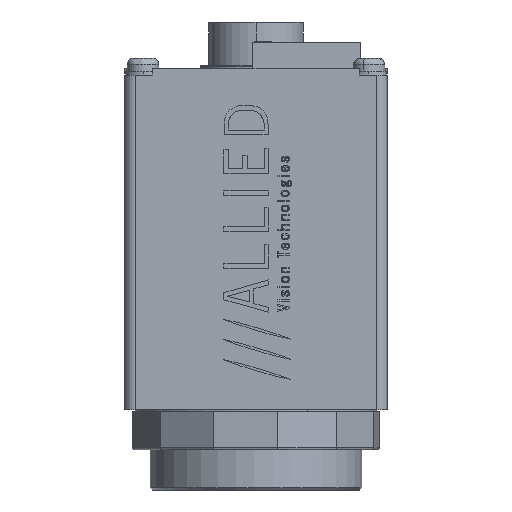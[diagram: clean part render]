
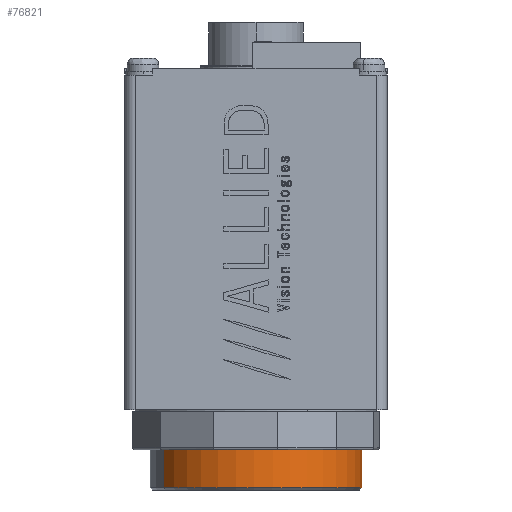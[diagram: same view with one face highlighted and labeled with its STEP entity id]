
A CAD part, left-side view. The second image highlights one B-rep face of the part: STEP entity #76821.
In plain terms, the highlighted cylindrical face has radius 13.335 mm (diameter 26.67 mm), a partial arc.
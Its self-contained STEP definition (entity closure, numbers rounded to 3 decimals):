
#4271 = VERTEX_POINT ( 'NONE', #60377 ) ;
#8451 = LINE ( 'NONE', #150853, #146968 ) ;
#12616 = DIRECTION ( 'NONE',  ( 0., 0., -1. ) ) ;
#16207 = VERTEX_POINT ( 'NONE', #170030 ) ;
#17983 = EDGE_CURVE ( 'NONE', #16207, #18425, #37618, .T. ) ;
#18425 = VERTEX_POINT ( 'NONE', #113502 ) ;
#24661 = EDGE_CURVE ( 'NONE', #16207, #4271, #8451, .T. ) ;
#30802 = AXIS2_PLACEMENT_3D ( 'NONE', #95742, #12616, #109544 ) ;
#37618 = CIRCLE ( 'NONE', #100618, 13.335 ) ;
#37852 = ORIENTED_EDGE ( 'NONE', *, *, #83268, .T. ) ;
#48299 = CYLINDRICAL_SURFACE ( 'NONE', #114862, 13.335 ) ;
#59010 = ORIENTED_EDGE ( 'NONE', *, *, #24661, .F. ) ;
#59502 = LINE ( 'NONE', #64895, #96219 ) ;
#60377 = CARTESIAN_POINT ( 'NONE',  ( -13.335, 0., 13.386 ) ) ;
#61333 = FACE_OUTER_BOUND ( 'NONE', #74140, .T. ) ;
#64895 = CARTESIAN_POINT ( 'NONE',  ( 13.335, 0., 7.214 ) ) ;
#71347 = DIRECTION ( 'NONE',  ( 1., 0., 0. ) ) ;
#72879 = DIRECTION ( 'NONE',  ( 0., 0., 1. ) ) ;
#72907 = CARTESIAN_POINT ( 'NONE',  ( 0., 0., 7.214 ) ) ;
#74140 = EDGE_LOOP ( 'NONE', ( #59010, #160220, #37852, #138491 ) ) ;
#76821 = ADVANCED_FACE ( 'NONE', ( #61333 ), #48299, .T. ) ;
#83268 = EDGE_CURVE ( 'NONE', #18425, #154125, #59502, .T. ) ;
#95742 = CARTESIAN_POINT ( 'NONE',  ( 0., 0., 13.386 ) ) ;
#96219 = VECTOR ( 'NONE', #174271, 1000. ) ;
#98395 = EDGE_CURVE ( 'NONE', #154125, #4271, #112491, .T. ) ;
#100618 = AXIS2_PLACEMENT_3D ( 'NONE', #161258, #161095, #161044 ) ;
#109544 = DIRECTION ( 'NONE',  ( 1., 0., 0. ) ) ;
#112491 = CIRCLE ( 'NONE', #30802, 13.335 ) ;
#113502 = CARTESIAN_POINT ( 'NONE',  ( 13.335, 0., 7.214 ) ) ;
#114862 = AXIS2_PLACEMENT_3D ( 'NONE', #72907, #72879, #71347 ) ;
#138491 = ORIENTED_EDGE ( 'NONE', *, *, #98395, .T. ) ;
#146888 = CARTESIAN_POINT ( 'NONE',  ( 13.335, 0., 13.386 ) ) ;
#146968 = VECTOR ( 'NONE', #150080, 1000. ) ;
#150080 = DIRECTION ( 'NONE',  ( 0., 0., 1. ) ) ;
#150853 = CARTESIAN_POINT ( 'NONE',  ( -13.335, 0., 7.214 ) ) ;
#154125 = VERTEX_POINT ( 'NONE', #146888 ) ;
#160220 = ORIENTED_EDGE ( 'NONE', *, *, #17983, .T. ) ;
#161044 = DIRECTION ( 'NONE',  ( 1., 0., 0. ) ) ;
#161095 = DIRECTION ( 'NONE',  ( 0., 0., 1. ) ) ;
#161258 = CARTESIAN_POINT ( 'NONE',  ( 0., 0., 7.214 ) ) ;
#170030 = CARTESIAN_POINT ( 'NONE',  ( -13.335, 0., 7.214 ) ) ;
#174271 = DIRECTION ( 'NONE',  ( 0., 0., 1. ) ) ;
